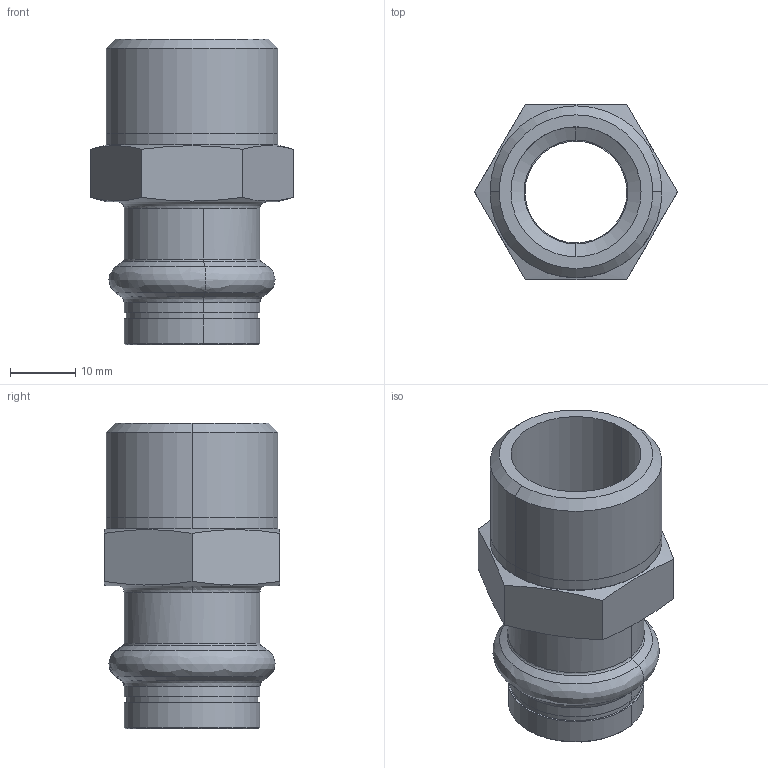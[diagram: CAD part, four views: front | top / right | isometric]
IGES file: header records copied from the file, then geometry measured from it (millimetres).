
Start section: Elysium IGES Interface
Global section: file name: C:\Users\Wallenburg\Desktop\3d modellen sudo\S-Pr VP\SP6243GV\6243GVW1834.igs; native system: CoCreate Modeling 17.00A  17-Jun-2010; preprocessor: CoCreate IGES_3D V2.2; author: Unknown; organization: Unknown; date: 20130124.135733; units: millimetre
Bounding box: 31.18 x 27 x 47 mm (x, y, z)
Volume: 9723.8 mm3; surface area: 7348.8 mm2
Topology: 1 solids, 1 shells, 63 faces, 140 edges, 84 vertices
Faces by surface type: bspline 63
